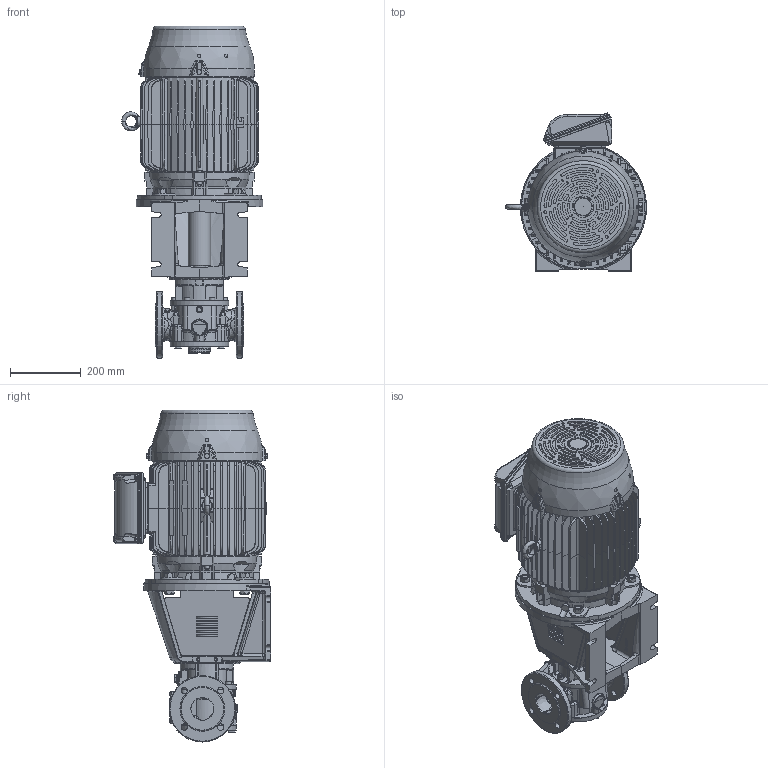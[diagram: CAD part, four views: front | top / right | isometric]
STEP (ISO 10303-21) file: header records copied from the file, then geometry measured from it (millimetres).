
FILE_DESCRIPTION(/* description */ (''),/* implementation_level */ '2;1');
FILE_NAME(/* name */ 'C:\V\JPP\Designs\GEAR PUMPS\PRODUCT ENGINEERING\EUROPE\TG BLOC\TG BLOC_23-65_R5_O_NRV-_160M-STEP.stp',/* time_stamp */ '2021-03-18T15:04:16+01:00',/* author */ ('A77THR'),/* organization */ (''),/* preprocessor_version */ 'ST-DEVELOPER v18.1',/* originating_system */ 'Autodesk Inventor 2020',/* authorisation */ '');
FILE_SCHEMA (('AUTOMOTIVE_DESIGN { 1 0 10303 214 3 1 1 }'));
Length unit declared in the file: millimetre
Products named in the file (1): TG BLOC_23-65_R5_O_NRV-_160M
Bounding box: 397.99 x 444.6 x 936 mm (x, y, z)
Volume: 44227566.5 mm3; surface area: 2321382.4 mm2
Topology: 1 solids, 1 shells, 4787 faces, 12503 edges, 7847 vertices
Faces by surface type: plane 1878, bspline 1131, cylinder 1052, cone 539, torus 145, sphere 42
Full cylindrical faces by diameter (mm): 4 x1, 4.5 x8, 4.917 x8, 5.459 x14, 6 x14, 6.647 x1, 7 x18, 7.5 x3, 8 x13, 8.376 x5, 8.5 x2, 8.7 x14, 9.188 x4, 9.4 x1, 10 x12, 10.5 x1, 11.445 x2, 11.5 x4, 11.6 x7, 12 x3, 12.5 x3, 13 x4, 14 x1, 15.011 x3, 15.4 x10, 16 x6, 17.9 x3, 18 x11, 19 x3, 21 x2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
Entity records: 208291 total; most frequent: CARTESIAN_POINT 94534, ORIENTED_EDGE 24734, DIRECTION 20518, EDGE_CURVE 12367, AXIS2_PLACEMENT_3D 7947, VERTEX_POINT 7847, EDGE_LOOP 5180, FACE_OUTER_BOUND 4787
